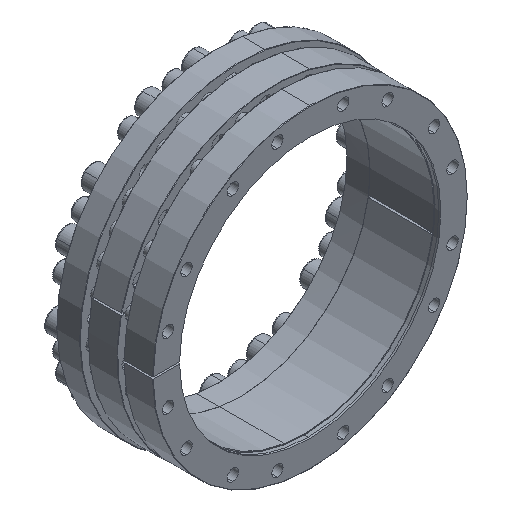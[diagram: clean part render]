
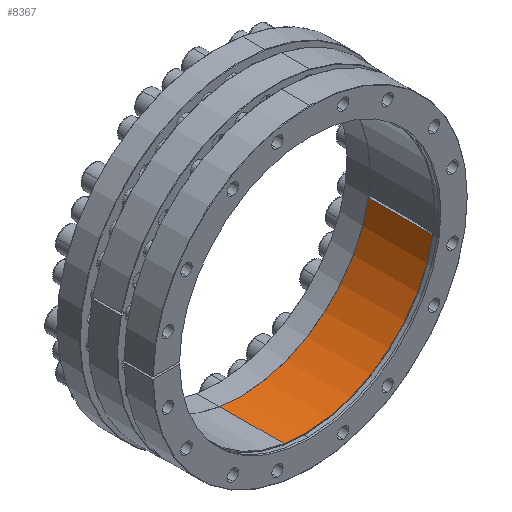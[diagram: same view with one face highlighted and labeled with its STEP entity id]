
A CAD part, isometric view. The second image highlights one B-rep face of the part: STEP entity #8367.
In plain terms, the highlighted cylindrical face has radius 200 mm (diameter 400 mm), a partial arc.
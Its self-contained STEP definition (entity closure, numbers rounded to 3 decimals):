
#986 = CIRCLE ( 'NONE', #41459, 200. ) ;
#2526 = CARTESIAN_POINT ( 'NONE',  ( 0., 9.005, 0. ) ) ;
#4253 = ORIENTED_EDGE ( 'NONE', *, *, #34265, .T. ) ;
#4513 = VECTOR ( 'NONE', #14192, 1000. ) ;
#5034 = VERTEX_POINT ( 'NONE', #12355 ) ;
#5142 = CYLINDRICAL_SURFACE ( 'NONE', #38705, 200. ) ;
#6061 = EDGE_CURVE ( 'NONE', #32725, #15338, #14493, .T. ) ;
#7654 = DIRECTION ( 'NONE',  ( 0., -1., 0. ) ) ;
#8367 = ADVANCED_FACE ( 'NONE', ( #29880 ), #5142, .F. ) ;
#10894 = ORIENTED_EDGE ( 'NONE', *, *, #6061, .T. ) ;
#11873 = CARTESIAN_POINT ( 'NONE',  ( 197.256, 108.005, -33.014 ) ) ;
#12355 = CARTESIAN_POINT ( 'NONE',  ( -31.287, 108.005, -197.538 ) ) ;
#12932 = ORIENTED_EDGE ( 'NONE', *, *, #41856, .F. ) ;
#14192 = DIRECTION ( 'NONE',  ( 0., 1., 0. ) ) ;
#14493 = LINE ( 'NONE', #47893, #4513 ) ;
#15338 = VERTEX_POINT ( 'NONE', #11873 ) ;
#16139 = CARTESIAN_POINT ( 'NONE',  ( 0., 9.005, 0. ) ) ;
#18511 = EDGE_LOOP ( 'NONE', ( #12932, #4253, #22559, #10894 ) ) ;
#19913 = DIRECTION ( 'NONE',  ( -0.156, 0., -0.988 ) ) ;
#20146 = EDGE_CURVE ( 'NONE', #42632, #32725, #986, .T. ) ;
#22559 = ORIENTED_EDGE ( 'NONE', *, *, #20146, .T. ) ;
#23884 = CIRCLE ( 'NONE', #43613, 200. ) ;
#23925 = CARTESIAN_POINT ( 'NONE',  ( -31.287, 9.005, -197.538 ) ) ;
#29880 = FACE_OUTER_BOUND ( 'NONE', #18511, .T. ) ;
#30162 = CARTESIAN_POINT ( 'NONE',  ( 0., 108.005, 0. ) ) ;
#32725 = VERTEX_POINT ( 'NONE', #48528 ) ;
#32766 = DIRECTION ( 'NONE',  ( -0.156, 0., -0.988 ) ) ;
#33057 = LINE ( 'NONE', #23925, #42974 ) ;
#33932 = DIRECTION ( 'NONE',  ( -0.156, 0., -0.988 ) ) ;
#34265 = EDGE_CURVE ( 'NONE', #5034, #42632, #33057, .T. ) ;
#38705 = AXIS2_PLACEMENT_3D ( 'NONE', #2526, #40111, #32766 ) ;
#40111 = DIRECTION ( 'NONE',  ( 0., -1., 0. ) ) ;
#41459 = AXIS2_PLACEMENT_3D ( 'NONE', #16139, #42392, #19913 ) ;
#41856 = EDGE_CURVE ( 'NONE', #5034, #15338, #23884, .T. ) ;
#42181 = CARTESIAN_POINT ( 'NONE',  ( -31.287, 9.005, -197.538 ) ) ;
#42300 = DIRECTION ( 'NONE',  ( 0., -1., 0. ) ) ;
#42392 = DIRECTION ( 'NONE',  ( 0., -1., 0. ) ) ;
#42632 = VERTEX_POINT ( 'NONE', #42181 ) ;
#42974 = VECTOR ( 'NONE', #42300, 1000. ) ;
#43613 = AXIS2_PLACEMENT_3D ( 'NONE', #30162, #7654, #33932 ) ;
#47893 = CARTESIAN_POINT ( 'NONE',  ( 197.256, 9.005, -33.014 ) ) ;
#48528 = CARTESIAN_POINT ( 'NONE',  ( 197.256, 9.005, -33.014 ) ) ;
